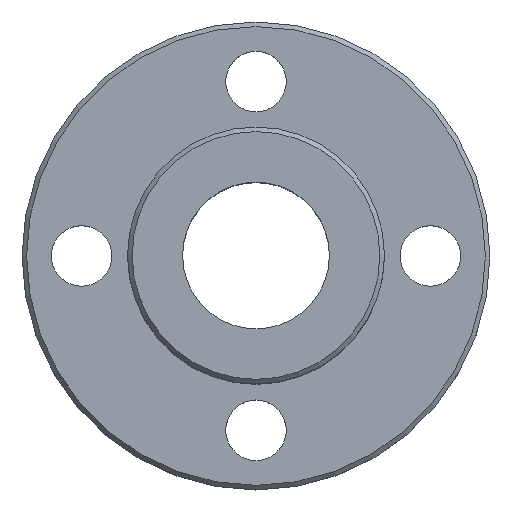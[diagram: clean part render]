
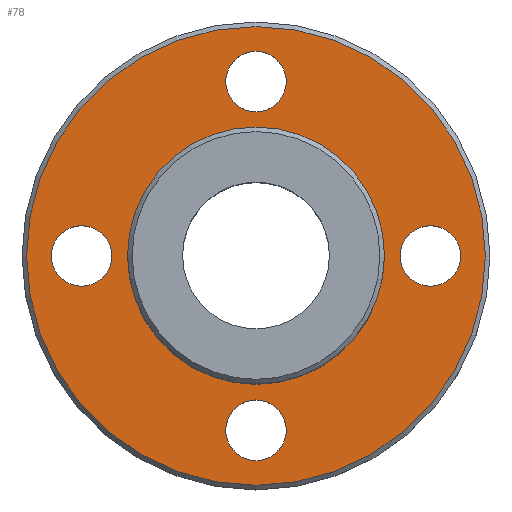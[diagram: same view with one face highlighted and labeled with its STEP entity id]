
A CAD part, top view. The second image highlights one B-rep face of the part: STEP entity #78.
In plain terms, the highlighted planar face has unit normal (0, 0, 1).
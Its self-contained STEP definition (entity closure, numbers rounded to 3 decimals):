
#78=ADVANCED_FACE('',(#102,#103,#104,#105,#106,#107),#108,.T.);
#102=FACE_BOUND('',#149,.T.);
#103=FACE_BOUND('',#150,.T.);
#104=FACE_OUTER_BOUND('',#151,.T.);
#105=FACE_BOUND('',#152,.T.);
#106=FACE_BOUND('',#153,.T.);
#107=FACE_BOUND('',#154,.T.);
#108=PLANE('',#155);
#149=EDGE_LOOP('',(#202));
#150=EDGE_LOOP('',(#203));
#151=EDGE_LOOP('',(#204));
#152=EDGE_LOOP('',(#205));
#153=EDGE_LOOP('',(#206));
#154=EDGE_LOOP('',(#207));
#155=AXIS2_PLACEMENT_3D('',#208,#209,#210);
#202=ORIENTED_EDGE('',*,*,#258,.T.);
#203=ORIENTED_EDGE('',*,*,#264,.T.);
#204=ORIENTED_EDGE('',*,*,#265,.T.);
#205=ORIENTED_EDGE('',*,*,#266,.T.);
#206=ORIENTED_EDGE('',*,*,#267,.T.);
#207=ORIENTED_EDGE('',*,*,#256,.T.);
#208=CARTESIAN_POINT('',(0.0,0.0,6.0));
#209=DIRECTION('',(0.0,0.0,1.0));
#210=DIRECTION('',(1.0,0.0,0.0));
#256=EDGE_CURVE('',#273,#273,#274,.F.);
#258=EDGE_CURVE('',#277,#277,#278,.F.);
#264=EDGE_CURVE('',#289,#289,#290,.F.);
#265=EDGE_CURVE('',#291,#291,#292,.T.);
#266=EDGE_CURVE('',#293,#293,#294,.F.);
#267=EDGE_CURVE('',#295,#295,#296,.F.);
#273=VERTEX_POINT('',#307);
#274=CIRCLE('',#308,3.3);
#277=VERTEX_POINT('',#311);
#278=CIRCLE('',#312,3.3);
#289=VERTEX_POINT('',#323);
#290=CIRCLE('',#324,3.3);
#291=VERTEX_POINT('',#325);
#292=CIRCLE('',#326,25.0);
#293=VERTEX_POINT('',#327);
#294=CIRCLE('',#328,14.0);
#295=VERTEX_POINT('',#329);
#296=CIRCLE('',#330,3.3);
#307=CARTESIAN_POINT('',(3.3,-19.0,6.0));
#308=AXIS2_PLACEMENT_3D('',#341,#342,#343);
#311=CARTESIAN_POINT('',(-15.7,0.,6.0));
#312=AXIS2_PLACEMENT_3D('',#347,#348,#349);
#323=CARTESIAN_POINT('',(22.3,0.,6.0));
#324=AXIS2_PLACEMENT_3D('',#365,#366,#367);
#325=CARTESIAN_POINT('',(25.0,0.0,6.0));
#326=AXIS2_PLACEMENT_3D('',#368,#369,#370);
#327=CARTESIAN_POINT('',(14.0,0.,6.0));
#328=AXIS2_PLACEMENT_3D('',#371,#372,#373);
#329=CARTESIAN_POINT('',(3.3,19.0,6.0));
#330=AXIS2_PLACEMENT_3D('',#374,#375,#376);
#341=CARTESIAN_POINT('',(0.,-19.0,6.0));
#342=DIRECTION('',(0.0,0.0,1.0));
#343=DIRECTION('',(1.0,0.0,0.0));
#347=CARTESIAN_POINT('',(-19.0,0.,6.0));
#348=DIRECTION('',(0.0,0.0,1.0));
#349=DIRECTION('',(1.0,0.0,0.0));
#365=CARTESIAN_POINT('',(19.0,0.0,6.0));
#366=DIRECTION('',(0.0,0.0,1.0));
#367=DIRECTION('',(1.0,0.0,0.0));
#368=CARTESIAN_POINT('',(0.0,0.0,6.0));
#369=DIRECTION('',(0.0,0.0,1.0));
#370=DIRECTION('',(1.0,0.0,0.0));
#371=CARTESIAN_POINT('',(0.0,0.0,6.0));
#372=DIRECTION('',(0.0,0.0,1.0));
#373=DIRECTION('',(1.0,0.0,0.0));
#374=CARTESIAN_POINT('',(0.,19.0,6.0));
#375=DIRECTION('',(0.0,0.0,1.0));
#376=DIRECTION('',(1.0,0.0,0.0));
